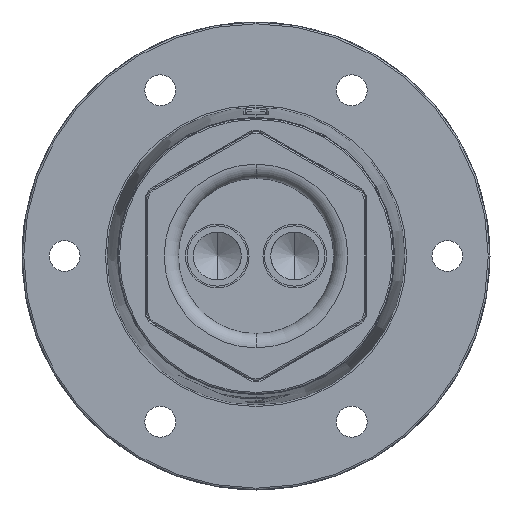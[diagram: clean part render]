
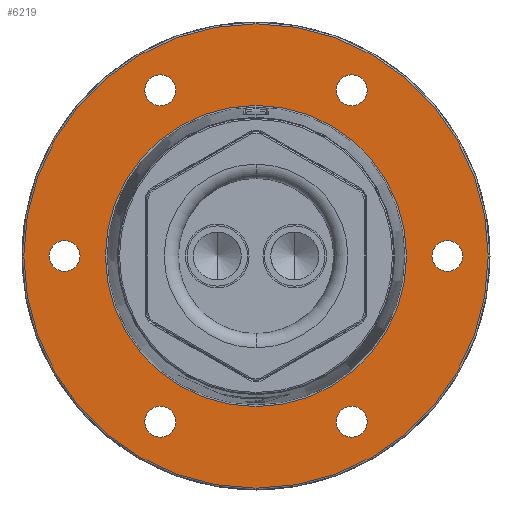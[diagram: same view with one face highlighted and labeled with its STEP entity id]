
A CAD part, front view. The second image highlights one B-rep face of the part: STEP entity #6219.
In plain terms, the highlighted planar face has unit normal (0, -1, 0).
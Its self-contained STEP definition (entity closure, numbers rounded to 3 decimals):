
#2523=CARTESIAN_POINT('',(0.,11.9,0.));
#2524=DIRECTION('',(0.,-1.,0.));
#2525=DIRECTION('',(0.,0.,-1.));
#2526=AXIS2_PLACEMENT_3D('',#2523,#2524,#2525);
#2528=CARTESIAN_POINT('',(0.,11.9,0.));
#2529=DIRECTION('',(0.,-1.,0.));
#2530=DIRECTION('',(0.,0.,1.));
#2531=AXIS2_PLACEMENT_3D('',#2528,#2529,#2530);
#2533=CARTESIAN_POINT('',(0.,11.9,0.));
#2534=DIRECTION('',(0.,-1.,0.));
#2535=DIRECTION('',(0.,0.,1.));
#2536=AXIS2_PLACEMENT_3D('',#2533,#2534,#2535);
#2538=CARTESIAN_POINT('',(0.,11.9,0.));
#2539=DIRECTION('',(0.,-1.,0.));
#2540=DIRECTION('',(0.,0.,-1.));
#2541=AXIS2_PLACEMENT_3D('',#2538,#2539,#2540);
#2543=CARTESIAN_POINT('',(13.475,11.9,23.339));
#2544=DIRECTION('',(0.,1.,0.));
#2545=DIRECTION('',(0.,0.,-1.));
#2546=AXIS2_PLACEMENT_3D('',#2543,#2544,#2545);
#2548=CARTESIAN_POINT('',(13.475,11.9,23.339));
#2549=DIRECTION('',(0.,1.,0.));
#2550=DIRECTION('',(0.,0.,1.));
#2551=AXIS2_PLACEMENT_3D('',#2548,#2549,#2550);
#2553=CARTESIAN_POINT('',(-13.475,11.9,23.339));
#2554=DIRECTION('',(0.,1.,0.));
#2555=DIRECTION('',(0.866,0.,-0.5));
#2556=AXIS2_PLACEMENT_3D('',#2553,#2554,#2555);
#2558=CARTESIAN_POINT('',(-13.475,11.9,23.339));
#2559=DIRECTION('',(0.,1.,0.));
#2560=DIRECTION('',(-0.866,0.,0.5));
#2561=AXIS2_PLACEMENT_3D('',#2558,#2559,#2560);
#2563=CARTESIAN_POINT('',(-26.95,11.9,0.));
#2564=DIRECTION('',(0.,1.,0.));
#2565=DIRECTION('',(0.866,0.,0.5));
#2566=AXIS2_PLACEMENT_3D('',#2563,#2564,#2565);
#2568=CARTESIAN_POINT('',(-26.95,11.9,0.));
#2569=DIRECTION('',(0.,1.,0.));
#2570=DIRECTION('',(-0.866,0.,-0.5));
#2571=AXIS2_PLACEMENT_3D('',#2568,#2569,#2570);
#2573=CARTESIAN_POINT('',(-13.475,11.9,-23.339));
#2574=DIRECTION('',(0.,1.,0.));
#2575=DIRECTION('',(0.,0.,1.));
#2576=AXIS2_PLACEMENT_3D('',#2573,#2574,#2575);
#2578=CARTESIAN_POINT('',(-13.475,11.9,-23.339));
#2579=DIRECTION('',(0.,1.,0.));
#2580=DIRECTION('',(0.,0.,-1.));
#2581=AXIS2_PLACEMENT_3D('',#2578,#2579,#2580);
#2583=CARTESIAN_POINT('',(13.475,11.9,-23.339));
#2584=DIRECTION('',(0.,1.,0.));
#2585=DIRECTION('',(-0.866,0.,0.5));
#2586=AXIS2_PLACEMENT_3D('',#2583,#2584,#2585);
#2588=CARTESIAN_POINT('',(13.475,11.9,-23.339));
#2589=DIRECTION('',(0.,1.,0.));
#2590=DIRECTION('',(0.866,0.,-0.5));
#2591=AXIS2_PLACEMENT_3D('',#2588,#2589,#2590);
#2593=CARTESIAN_POINT('',(26.95,11.9,0.));
#2594=DIRECTION('',(0.,1.,0.));
#2595=DIRECTION('',(-0.866,0.,-0.5));
#2596=AXIS2_PLACEMENT_3D('',#2593,#2594,#2595);
#2598=CARTESIAN_POINT('',(26.95,11.9,0.));
#2599=DIRECTION('',(0.,1.,0.));
#2600=DIRECTION('',(0.866,0.,0.5));
#2601=AXIS2_PLACEMENT_3D('',#2598,#2599,#2600);
#5604=CARTESIAN_POINT('',(0.,11.9,21.2));
#5605=CARTESIAN_POINT('',(0.,11.9,-21.2));
#5606=VERTEX_POINT('',#5604);
#5607=VERTEX_POINT('',#5605);
#5608=CARTESIAN_POINT('',(0.,11.9,32.7));
#5609=CARTESIAN_POINT('',(0.,11.9,-32.7));
#5610=VERTEX_POINT('',#5608);
#5611=VERTEX_POINT('',#5609);
#5713=CARTESIAN_POINT('',(13.475,11.9,21.164));
#5714=CARTESIAN_POINT('',(13.475,11.9,25.514));
#5715=VERTEX_POINT('',#5713);
#5716=VERTEX_POINT('',#5714);
#5725=CARTESIAN_POINT('',(-11.591,11.9,22.252));
#5726=CARTESIAN_POINT('',(-15.359,11.9,24.427));
#5727=VERTEX_POINT('',#5725);
#5728=VERTEX_POINT('',#5726);
#5737=CARTESIAN_POINT('',(-25.066,11.9,1.088));
#5738=CARTESIAN_POINT('',(-28.834,11.9,-1.088));
#5739=VERTEX_POINT('',#5737);
#5740=VERTEX_POINT('',#5738);
#5749=CARTESIAN_POINT('',(-13.475,11.9,-21.164));
#5750=CARTESIAN_POINT('',(-13.475,11.9,-25.514));
#5751=VERTEX_POINT('',#5749);
#5752=VERTEX_POINT('',#5750);
#5777=CARTESIAN_POINT('',(11.591,11.9,-22.252));
#5778=CARTESIAN_POINT('',(15.359,11.9,-24.427));
#5779=VERTEX_POINT('',#5777);
#5780=VERTEX_POINT('',#5778);
#5785=CARTESIAN_POINT('',(25.066,11.9,-1.088));
#5786=CARTESIAN_POINT('',(28.834,11.9,1.088));
#5787=VERTEX_POINT('',#5785);
#5788=VERTEX_POINT('',#5786);
#6166=CARTESIAN_POINT('',(0.,11.9,0.));
#6167=DIRECTION('',(0.,-1.,0.));
#6168=DIRECTION('',(0.,0.,1.));
#6169=AXIS2_PLACEMENT_3D('',#6166,#6167,#6168);
#6170=PLANE('',#6169);
#6172=ORIENTED_EDGE('',*,*,#6171,.F.);
#6174=ORIENTED_EDGE('',*,*,#6173,.F.);
#6175=EDGE_LOOP('',(#6172,#6174));
#6176=FACE_OUTER_BOUND('',#6175,.F.);
#6178=ORIENTED_EDGE('',*,*,#6177,.T.);
#6180=ORIENTED_EDGE('',*,*,#6179,.T.);
#6181=EDGE_LOOP('',(#6178,#6180));
#6182=FACE_BOUND('',#6181,.F.);
#6184=ORIENTED_EDGE('',*,*,#6183,.F.);
#6186=ORIENTED_EDGE('',*,*,#6185,.F.);
#6187=EDGE_LOOP('',(#6184,#6186));
#6188=FACE_BOUND('',#6187,.F.);
#6190=ORIENTED_EDGE('',*,*,#6189,.F.);
#6192=ORIENTED_EDGE('',*,*,#6191,.F.);
#6193=EDGE_LOOP('',(#6190,#6192));
#6194=FACE_BOUND('',#6193,.F.);
#6196=ORIENTED_EDGE('',*,*,#6195,.F.);
#6198=ORIENTED_EDGE('',*,*,#6197,.F.);
#6199=EDGE_LOOP('',(#6196,#6198));
#6200=FACE_BOUND('',#6199,.F.);
#6202=ORIENTED_EDGE('',*,*,#6201,.F.);
#6204=ORIENTED_EDGE('',*,*,#6203,.F.);
#6205=EDGE_LOOP('',(#6202,#6204));
#6206=FACE_BOUND('',#6205,.F.);
#6208=ORIENTED_EDGE('',*,*,#6207,.F.);
#6210=ORIENTED_EDGE('',*,*,#6209,.F.);
#6211=EDGE_LOOP('',(#6208,#6210));
#6212=FACE_BOUND('',#6211,.F.);
#6214=ORIENTED_EDGE('',*,*,#6213,.F.);
#6216=ORIENTED_EDGE('',*,*,#6215,.F.);
#6217=EDGE_LOOP('',(#6214,#6216));
#6218=FACE_BOUND('',#6217,.F.);
#2527=CIRCLE('',#2526,21.2);
#2532=CIRCLE('',#2531,21.2);
#2537=CIRCLE('',#2536,32.7);
#2542=CIRCLE('',#2541,32.7);
#2547=CIRCLE('',#2546,2.175);
#2552=CIRCLE('',#2551,2.175);
#2557=CIRCLE('',#2556,2.175);
#2562=CIRCLE('',#2561,2.175);
#2567=CIRCLE('',#2566,2.175);
#2572=CIRCLE('',#2571,2.175);
#2577=CIRCLE('',#2576,2.175);
#2582=CIRCLE('',#2581,2.175);
#2587=CIRCLE('',#2586,2.175);
#2592=CIRCLE('',#2591,2.175);
#2597=CIRCLE('',#2596,2.175);
#2602=CIRCLE('',#2601,2.175);
#6171=EDGE_CURVE('',#5610,#5611,#2537,.T.);
#6173=EDGE_CURVE('',#5611,#5610,#2542,.T.);
#6177=EDGE_CURVE('',#5607,#5606,#2527,.T.);
#6179=EDGE_CURVE('',#5606,#5607,#2532,.T.);
#6183=EDGE_CURVE('',#5715,#5716,#2547,.T.);
#6185=EDGE_CURVE('',#5716,#5715,#2552,.T.);
#6189=EDGE_CURVE('',#5727,#5728,#2557,.T.);
#6191=EDGE_CURVE('',#5728,#5727,#2562,.T.);
#6195=EDGE_CURVE('',#5739,#5740,#2567,.T.);
#6197=EDGE_CURVE('',#5740,#5739,#2572,.T.);
#6201=EDGE_CURVE('',#5751,#5752,#2577,.T.);
#6203=EDGE_CURVE('',#5752,#5751,#2582,.T.);
#6207=EDGE_CURVE('',#5779,#5780,#2587,.T.);
#6209=EDGE_CURVE('',#5780,#5779,#2592,.T.);
#6213=EDGE_CURVE('',#5787,#5788,#2597,.T.);
#6215=EDGE_CURVE('',#5788,#5787,#2602,.T.);
#6219=ADVANCED_FACE('',(#6176,#6182,#6188,#6194,#6200,#6206,#6212,#6218),#6170,
.T.);
